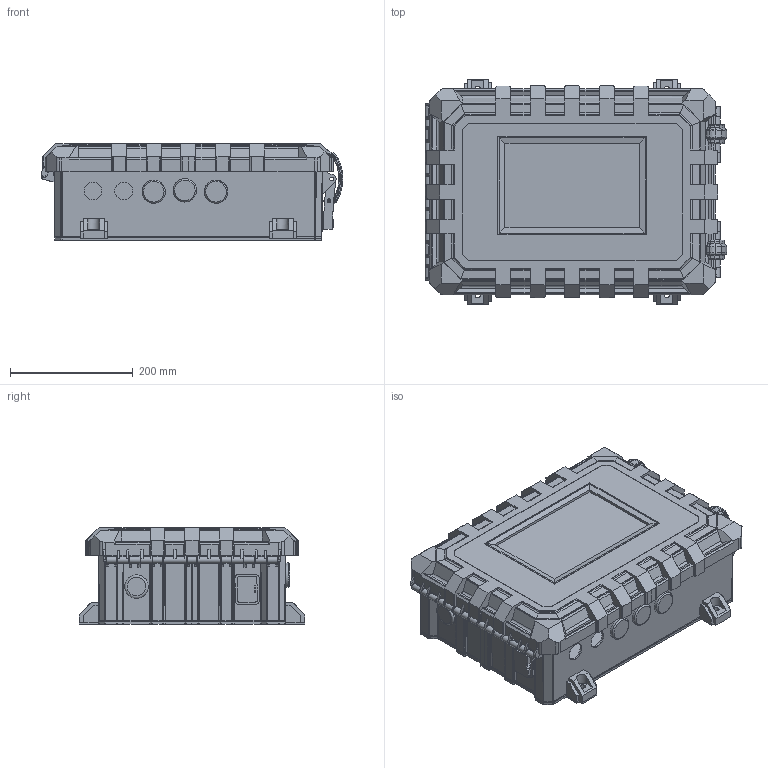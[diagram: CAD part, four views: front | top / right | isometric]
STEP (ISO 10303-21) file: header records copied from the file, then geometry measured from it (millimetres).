
FILE_DESCRIPTION(/* description */ (''),/* implementation_level */ '2;1');
FILE_NAME(/* name */ 'M255 Box.step',/* time_stamp */ '2025-05-27T17:16:52+05:30',/* author */ (''),/* organization */ (''),/* preprocessor_version */ 'ST-DEVELOPER v20.1',/* originating_system */ 'Autodesk Translation Framework v14.10.0.0',/* authorisation */ '');
FILE_SCHEMA (('AUTOMOTIVE_DESIGN { 1 0 10303 214 3 1 1 }'));
Products named in the file (1): M255 Box
Bounding box: 491.81 x 367.68 x 157.49 mm (x, y, z)
Volume: 2635119.3 mm3; surface area: 1595440.8 mm2
Topology: 11 solids, 11 shells, 2449 faces, 6633 edges, 4181 vertices
Faces by surface type: plane 1371, cylinder 528, bspline 370, cone 168, torus 12
Full cylindrical faces by diameter (mm): 4.699 x1, 6.096 x13, 6.35 x12, 8.89 x7, 14.732 x4, 29.21 x4, 30.48 x8, 38.1 x4
Entity records: 85666 total; most frequent: CARTESIAN_POINT 24177, ORIENTED_EDGE 13250, DIRECTION 12573, EDGE_CURVE 6625, LINE 4459, VECTOR 4459, VERTEX_POINT 4179, AXIS2_PLACEMENT_3D 4057
